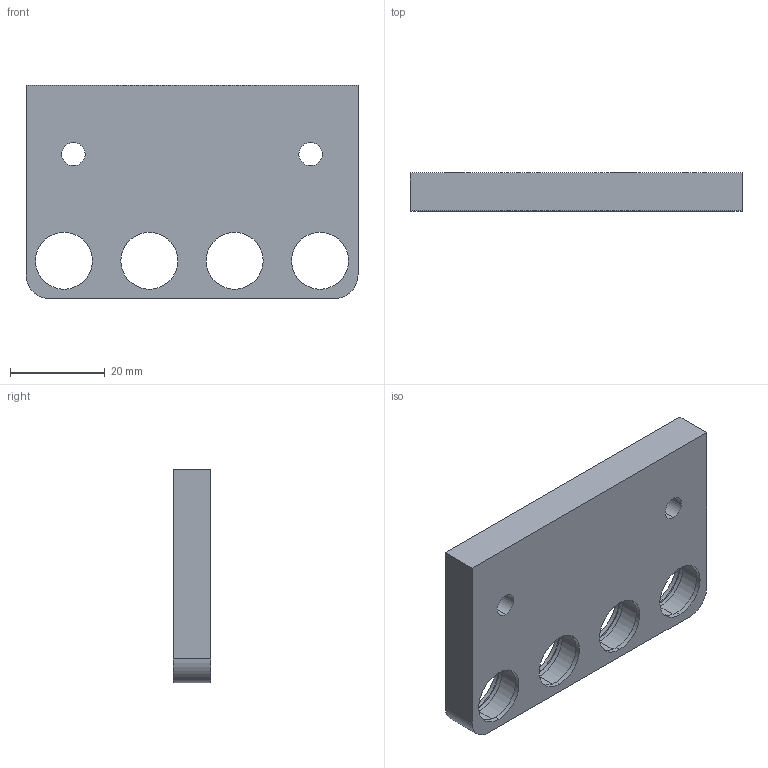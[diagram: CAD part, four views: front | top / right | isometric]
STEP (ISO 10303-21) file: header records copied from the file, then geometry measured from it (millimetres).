
FILE_DESCRIPTION (( 'STEP AP214' ), '1' );
FILE_NAME ('GZ21.22_V1导向从动轮安装板.STEP', '2021-02-28T04:27:46', ( 'hp' ), ( '' ), 'SwSTEP 2.0', 'SolidWorks 2017', '' );
FILE_SCHEMA (( 'AUTOMOTIVE_DESIGN' ));
Length unit declared in the file: millimetre
Products named in the file (1): GZ21.22_V1导向从动轮安装板
Bounding box: 70 x 8 x 45 mm (x, y, z)
Volume: 19733.1 mm3; surface area: 9044.1 mm2
Topology: 1 solids, 1 shells, 64 faces, 146 edges, 94 vertices
Faces by surface type: cylinder 42, plane 18, cone 4
Entity records: 1916 total; most frequent: DIRECTION 356, CARTESIAN_POINT 301, ORIENTED_EDGE 284, AXIS2_PLACEMENT_3D 149, EDGE_CURVE 142, VERTEX_POINT 94, EDGE_LOOP 90, CIRCLE 84
